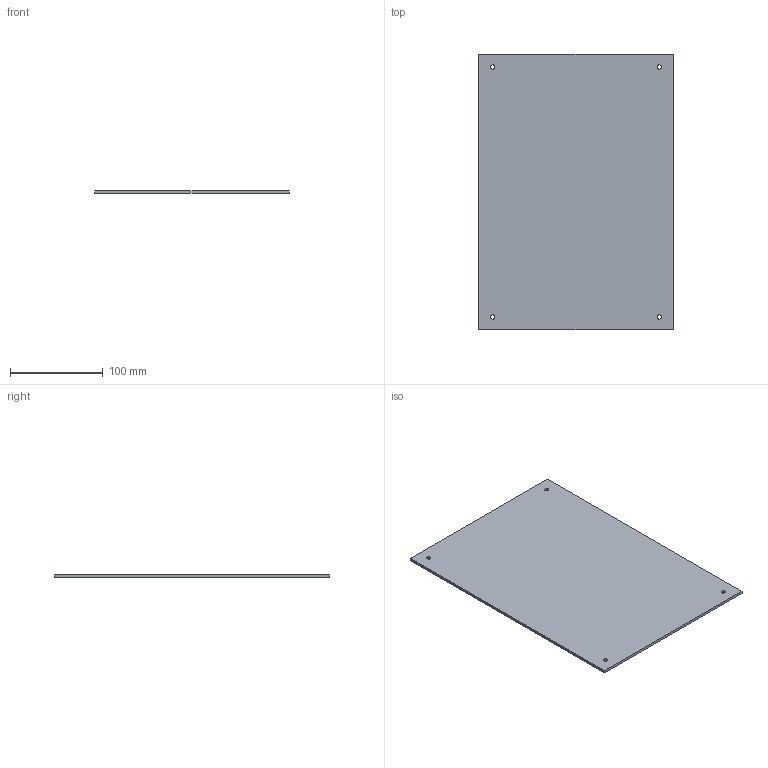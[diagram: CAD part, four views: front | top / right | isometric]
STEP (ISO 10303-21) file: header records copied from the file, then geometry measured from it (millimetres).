
FILE_DESCRIPTION(('Open CASCADE Model'),'2;1');
FILE_NAME('Open CASCADE Shape Model','2026-10-21T17:23:53',('Author'),( 'Open CASCADE'),'Open CASCADE STEP processor 7.9','Open CASCADE 7.9' ,'Unknown');
FILE_SCHEMA(('AUTOMOTIVE_DESIGN { 1 0 10303 214 1 1 1 1 }'));
Length unit declared in the file: millimetre
Products named in the file (1): Open CASCADE STEP translator 7.9 66
Bounding box: 210 x 297 x 3 mm (x, y, z)
Volume: 186919.1 mm3; surface area: 127824.4 mm2
Topology: 1 solids, 1 shells, 10 faces, 24 edges, 16 vertices
Faces by surface type: plane 6, cylinder 4
Full cylindrical faces by diameter (mm): 4.5 x4
Entity records: 658 total; most frequent: CARTESIAN_POINT 147, DIRECTION 94, LINE 56, VECTOR 56, ORIENTED_EDGE 48, PCURVE 48, DEFINITIONAL_REPRESENTATION 48, EDGE_CURVE 24
